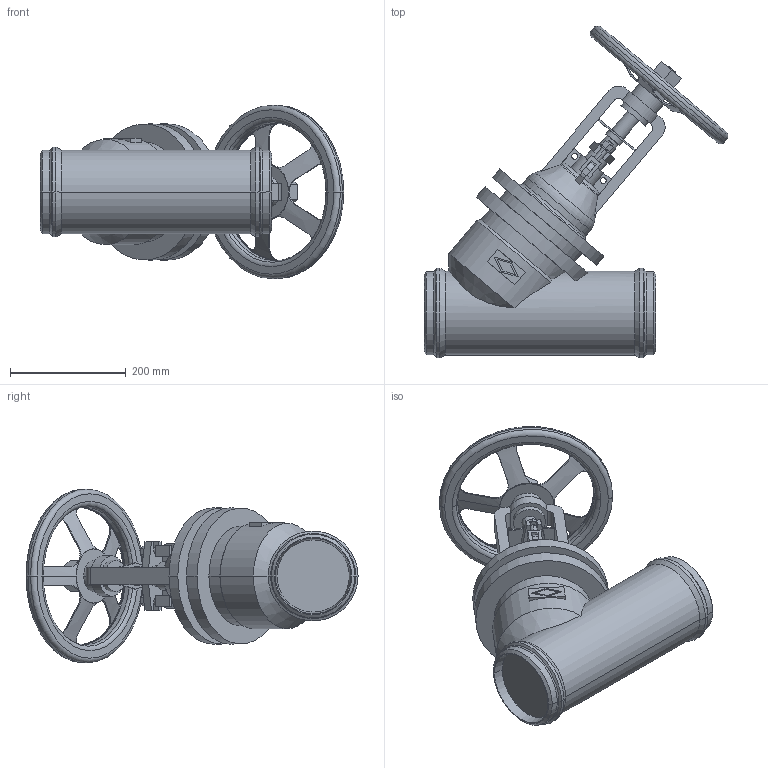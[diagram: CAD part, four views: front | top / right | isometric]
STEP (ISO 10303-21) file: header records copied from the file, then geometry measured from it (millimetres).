
FILE_DESCRIPTION(('OneSpaceDesigner STEP Export'),'2;1');
FILE_NAME('c000004355.stp','2010-05-10T10:58:12',(''),(''),'OneSpace Designer STEP processor for AP214 (Solid Model)','OneSpace Modeling 15.50B 03-Nov-2007 (C) CoCreate Software GmbH','');
FILE_SCHEMA(('AUTOMOTIVE_DESIGN { 1 0 10303 214 1 1 1 1 }'));
Length unit declared in the file: millimetre
Products named in the file (1): 1
Bounding box: 524.57 x 573.54 x 300 mm (x, y, z)
Volume: 12954395.6 mm3; surface area: 643343.2 mm2
Topology: 1 solids, 1 shells, 317 faces, 846 edges, 545 vertices
Faces by surface type: plane 141, cylinder 112, torus 34, cone 30
Entity records: 12764 total; most frequent: CARTESIAN_POINT 2945, ORIENTED_EDGE 1684, DIRECTION 1293, EDGE_CURVE 842, VERTEX_POINT 543, AXIS2_PLACEMENT_3D 446, VECTOR 401, LINE 401
